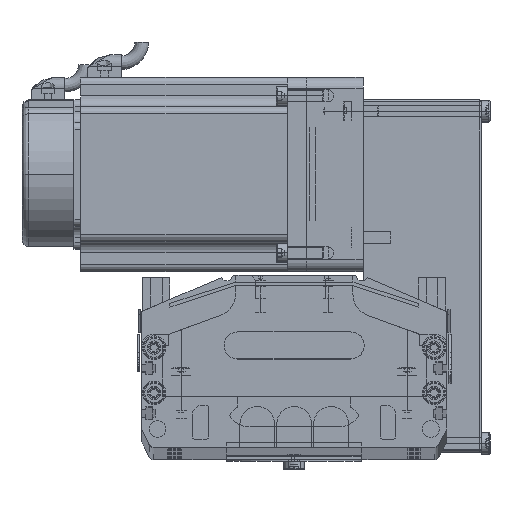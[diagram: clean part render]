
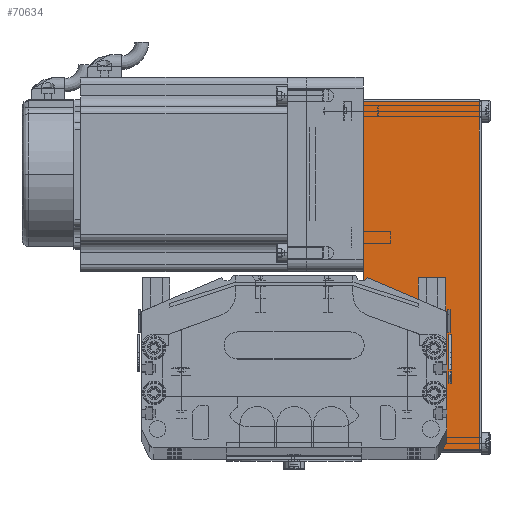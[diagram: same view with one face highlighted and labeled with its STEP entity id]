
A CAD part, top view. The second image highlights one B-rep face of the part: STEP entity #70634.
In plain terms, the highlighted planar face has unit normal (0, 0, 1) as drawn and (0, -1, 0) by its records, which use the part's own axes.
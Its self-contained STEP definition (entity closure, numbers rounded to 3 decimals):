
#13910 = VECTOR ( 'NONE', #14004, 1000. ) ;
#13911 = CARTESIAN_POINT ( 'NONE',  ( 32., -40., 51.5 ) ) ;
#14004 = DIRECTION ( 'NONE',  ( -1., 0., 0. ) ) ;
#14050 = LINE ( 'NONE', #13911, #13910 ) ;
#14121 = DIRECTION ( 'NONE',  ( -1., 0., 0. ) ) ;
#14122 = DIRECTION ( 'NONE',  ( 0., 1., 0. ) ) ;
#14125 = PLANE ( 'NONE',  #14188 ) ;
#14188 = AXIS2_PLACEMENT_3D ( 'NONE', #14252, #14122, #14121 ) ;
#14252 = CARTESIAN_POINT ( 'NONE',  ( 32., -40., 52.5 ) ) ;
#14253 = FACE_OUTER_BOUND ( 'NONE', #70381, .T. ) ;
#14289 = CARTESIAN_POINT ( 'NONE',  ( -123.2, -40., 0. ) ) ;
#14292 = DIRECTION ( 'NONE',  ( 1., 0., 0. ) ) ;
#14293 = VECTOR ( 'NONE', #14292, 1000. ) ;
#14295 = CARTESIAN_POINT ( 'NONE',  ( 32., -40., 0. ) ) ;
#14296 = LINE ( 'NONE', #14295, #14293 ) ;
#14358 = CARTESIAN_POINT ( 'NONE',  ( 31., -40., 51.5 ) ) ;
#14360 = DIRECTION ( 'NONE',  ( 0., 0., 1. ) ) ;
#14361 = VECTOR ( 'NONE', #14360, 1000. ) ;
#14362 = CARTESIAN_POINT ( 'NONE',  ( 31., -40., 52.5 ) ) ;
#14363 = LINE ( 'NONE', #14362, #14361 ) ;
#14417 = CARTESIAN_POINT ( 'NONE',  ( 31., -40., 0. ) ) ;
#14657 = CARTESIAN_POINT ( 'NONE',  ( -123.2, -40., 52.5 ) ) ;
#14658 = LINE ( 'NONE', #14657, #14676 ) ;
#14675 = DIRECTION ( 'NONE',  ( 0., 0., -1. ) ) ;
#14676 = VECTOR ( 'NONE', #14675, 1000. ) ;
#14766 = CARTESIAN_POINT ( 'NONE',  ( -123.2, -40., 51.5 ) ) ;
#70222 = ORIENTED_EDGE ( 'NONE', *, *, #70747, .T. ) ;
#70372 = ORIENTED_EDGE ( 'NONE', *, *, #70771, .T. ) ;
#70381 = EDGE_LOOP ( 'NONE', ( #70372, #70222, #70894, #70993 ) ) ;
#70606 = EDGE_CURVE ( 'NONE', #70689, #70906, #14050, .T. ) ;
#70634 = ADVANCED_FACE ( 'NONE', ( #14253 ), #14125, .F. ) ;
#70675 = VERTEX_POINT ( 'NONE', #14417 ) ;
#70689 = VERTEX_POINT ( 'NONE', #14358 ) ;
#70747 = EDGE_CURVE ( 'NONE', #70675, #70689, #14363, .T. ) ;
#70771 = EDGE_CURVE ( 'NONE', #70802, #70675, #14296, .T. ) ;
#70802 = VERTEX_POINT ( 'NONE', #14289 ) ;
#70894 = ORIENTED_EDGE ( 'NONE', *, *, #70606, .T. ) ;
#70906 = VERTEX_POINT ( 'NONE', #14766 ) ;
#70915 = EDGE_CURVE ( 'NONE', #70906, #70802, #14658, .T. ) ;
#70993 = ORIENTED_EDGE ( 'NONE', *, *, #70915, .T. ) ;
